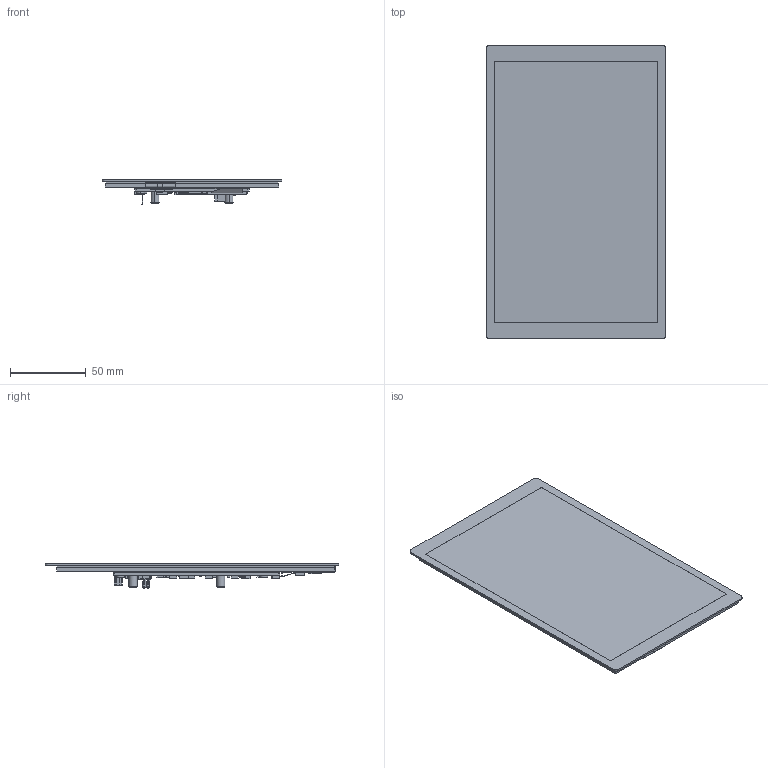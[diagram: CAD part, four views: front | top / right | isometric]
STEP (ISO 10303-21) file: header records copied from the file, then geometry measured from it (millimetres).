
FILE_DESCRIPTION((''),'2;1');
FILE_NAME('8INCH-DSI-LCD_C_ASM','2023-10-27T16:48:57',('xiaojisheng'),(''),'CREO PARAMETRIC BY PTC INC, 2021063','CREO PARAMETRIC BY PTC INC, 2021063','');
FILE_SCHEMA(('CONFIG_CONTROL_DESIGN','SHAPE_APPEARANCE_LAYERS_GROUPS'));
Products named in the file (8): 8INCH-LHM0802852181BC; 8INCH-800X1280-TP; 8INCH-800H_1280V-0428_ASM; TYPE-C_USB-9X3X6_5; 101INCH-DSI-PCBA-20220510; SWITCH-SMT-TDA04; 8_10INCH-DSI_PCBA-0428_ASM; 8INCH-DSI-LCD_C_ASM
Assembly tree (7 placements, depth 3):
  8INCH-DSI-LCD_C_ASM
    8INCH-800H_1280V-0428_ASM
      8INCH-LHM0802852181BC
      8INCH-800X1280-TP
    8_10INCH-DSI_PCBA-0428_ASM
      TYPE-C_USB-9X3X6_5
      101INCH-DSI-PCBA-20220510
      SWITCH-SMT-TDA04
Bounding box: 119 x 194 x 15.9 mm (x, y, z)
Volume: 110061.4 mm3; surface area: 152664.1 mm2
Topology: 13 solids, 15 shells, 4250 faces, 12434 edges, 7968 vertices
Faces by surface type: plane 3564, cylinder 559, cone 58, extrusion 37, bspline 32
Entity records: 176713 total; most frequent: CARTESIAN_POINT 32655, ORIENTED_EDGE 24836, DIRECTION 21234, EDGE_CURVE 12418, VECTOR 10192, LINE 10155, VERTEX_POINT 7968, PRESENTATION_STYLE_ASSIGNMENT 5771
